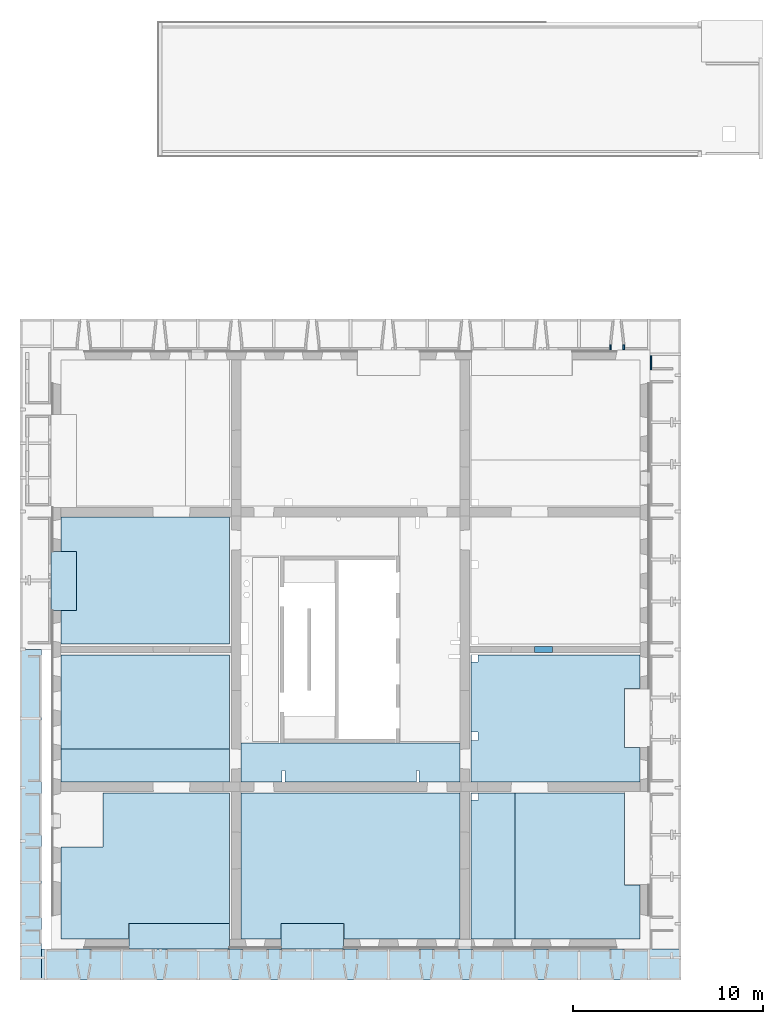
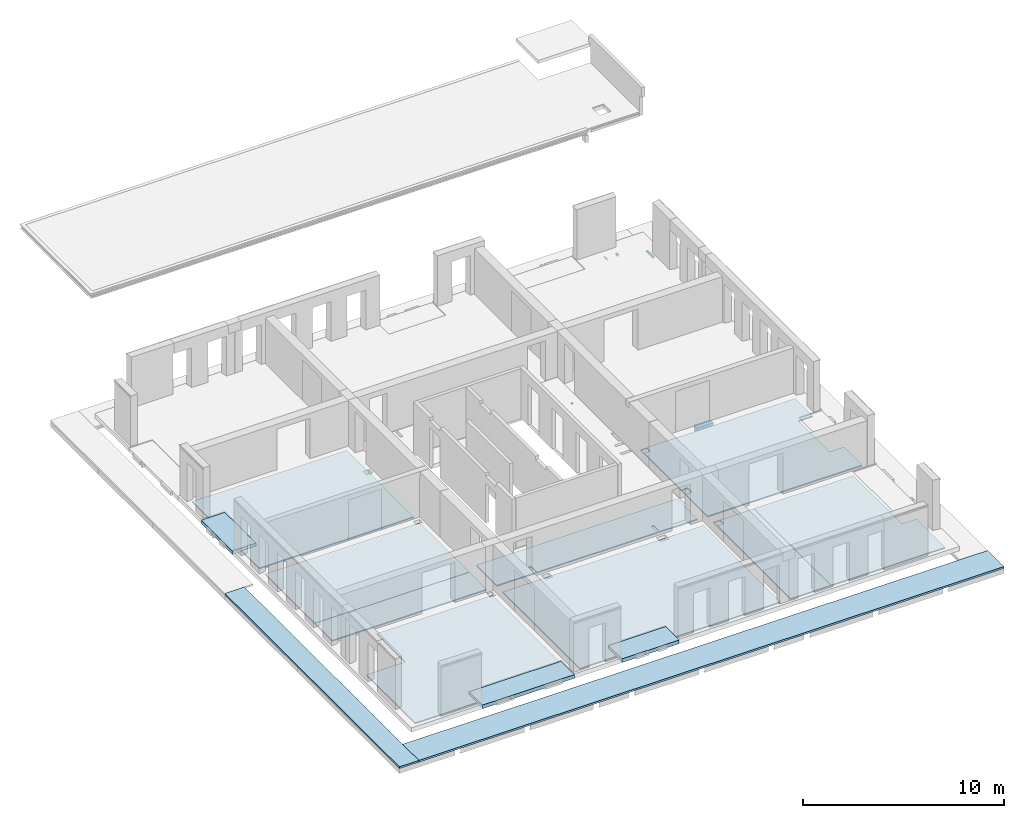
# One storey, part 19 of 27: 14 slabs, 4 beams, 24 openings.
"""IFC2X3 building model written with IfcOpenShell, lengths in millimetres."""

from ifc_helpers import new_model, entity, si_unit, converted_unit, derived_unit, direction, frame, frame_2d, origin, origin_2d_with_axis, place, context, subcontext, project, spatial, polyline, circle_curve, parameter, trimmed, segment, composite_curve, rectangle, circle, outline, extrude, faceted_brep, source, transform, mapped, material, layer, layer_set, layer_usage, type_object, type_shapes, element, save


model = new_model("IFC2X3")

# Units and contexts
model_context = context("Model", 3, precision=0.01, world=origin(), true_north=direction((6.12303176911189e-17, 1.0)))
body_context = subcontext(model_context, "Body", "Model", "MODEL_VIEW")
ifc_project = project(units=[si_unit("LENGTHUNIT", "METRE", prefix="MILLI"), si_unit("AREAUNIT", "SQUARE_METRE"), si_unit("VOLUMEUNIT", "CUBIC_METRE"), converted_unit("PLANEANGLEUNIT", "DEGREE", entity("IfcRatioMeasure", 0.0174532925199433), si_unit("PLANEANGLEUNIT", "RADIAN"), dimensions=[0, 0, 0, 0, 0, 0, 0]), si_unit("MASSUNIT", "GRAM", prefix="KILO"), derived_unit("MASSDENSITYUNIT", [(si_unit("MASSUNIT", "GRAM", prefix="KILO"), 1), (si_unit("LENGTHUNIT", "METRE"), -3)]), si_unit("TIMEUNIT", "SECOND"), si_unit("FREQUENCYUNIT", "HERTZ"), si_unit("THERMODYNAMICTEMPERATUREUNIT", "DEGREE_CELSIUS"), derived_unit("THERMALTRANSMITTANCEUNIT", [(si_unit("MASSUNIT", "GRAM", prefix="KILO"), 1), (si_unit("THERMODYNAMICTEMPERATUREUNIT", "KELVIN"), -1), (si_unit("TIMEUNIT", "SECOND"), -3)]), derived_unit("VOLUMETRICFLOWRATEUNIT", [(si_unit("LENGTHUNIT", "METRE"), 3), (si_unit("TIMEUNIT", "SECOND"), -1)]), si_unit("ELECTRICCURRENTUNIT", "AMPERE"), si_unit("ELECTRICVOLTAGEUNIT", "VOLT"), si_unit("POWERUNIT", "WATT"), si_unit("FORCEUNIT", "NEWTON", prefix="KILO"), si_unit("ILLUMINANCEUNIT", "LUX"), si_unit("LUMINOUSFLUXUNIT", "LUMEN"), si_unit("LUMINOUSINTENSITYUNIT", "CANDELA"), derived_unit("USERDEFINED", [(si_unit("MASSUNIT", "GRAM", prefix="KILO"), -1), (si_unit("LENGTHUNIT", "METRE"), -2), (si_unit("TIMEUNIT", "SECOND"), 3), (si_unit("LUMINOUSFLUXUNIT", "LUMEN"), 1)]), derived_unit("LINEARVELOCITYUNIT", [(si_unit("LENGTHUNIT", "METRE"), 1), (si_unit("TIMEUNIT", "SECOND"), -1)]), si_unit("PRESSUREUNIT", "PASCAL"), derived_unit("USERDEFINED", [(si_unit("LENGTHUNIT", "METRE"), -2), (si_unit("MASSUNIT", "GRAM", prefix="KILO"), 1), (si_unit("TIMEUNIT", "SECOND"), -2)])], contexts=[model_context])

# Site, building, storey
site_placement = place(None, origin())
site = spatial("IfcSite", under=ifc_project, at=site_placement, Name="Default", CompositionType="ELEMENT")
building_placement = place(site_placement, origin())
building = spatial("IfcBuilding", under=site, at=building_placement, Name="niet gebruiken", CompositionType="ELEMENT")
storey_placement = place(building_placement, frame((0.0, 0.0, 18000.0)))
storey = spatial("IfcBuildingStorey", under=building, at=storey_placement, Name="05 vijfde verdieping", CompositionType="ELEMENT", Elevation=18000.0)

# Beams
ifc_material_1 = material(Name="NLRS_f2_beton prefab")
beam_type_1 = type_object("IfcBeamType", Name="300x370", PredefinedType="BEAM", material=ifc_material_1)
shared_shape = source(origin(), body_context, "Body", "Brep", [
    faceted_brep([(950.0, 0.0, 370.0), (950.0, 0.0, 0.0), (950.0, 300.0, 0.0), (950.0, 300.0, 370.0), (0.0, 0.0, 370.0), (0.0, 300.0, 370.0), (0.0, 300.0, 0.0), (0.0, 0.0, 0.0)], [[[0, 1, 2, 3]], [[4, 5, 6, 7]], [[1, 0, 4, 7]], [[2, 1, 7, 6]], [[3, 2, 6, 5]], [[0, 3, 5, 4]]]),
])
type_shapes(beam_type_1, [shared_shape])
beam_1_placement = place(storey_placement, frame((151400.0, 17350.0, -600.0)))
element("IfcBeam", 1, at=beam_1_placement, inside=storey, type_object=beam_type_1, material=ifc_material_1, Name="NLRS_28.11_SF_WPB_prefabbeton balk recht_gen:300x370", ObjectType="300x370", context=body_context, shape_type="MappedRepresentation", body=[
    mapped(shared_shape, transform((0.0, 0.0, 0.0), scale=1.0)),
])
ifc_material_2 = material(Name="NLRS_h2_staal")
beam_type_2 = type_object("IfcBeamType", Name="NLRS_28.11_SF_WPB_stalen ligger hoekprofiel gelijkzijdig_gen:ligger gelijzijdig hoekprofiel LEQU_100x100x10", PredefinedType="BEAM")
beam_2_placement = place(storey_placement, frame((155350.0, 33490.0, -1015.0), z_axis=(0.0, 0.0, 1.0), x_axis=(0.0, -1.0, 0.0)))
element("IfcBeam", 2, at=beam_2_placement, inside=storey, type_object=beam_type_2, material=ifc_material_2, Name="NLRS_28.11_SF_WPB_stalen ligger hoekprofiel gelijkzijdig_gen:ligger gelijzijdig hoekprofiel LEQU_100x100x10", ObjectType="NLRS_28.11_SF_WPB_stalen ligger hoekprofiel gelijkzijdig_gen:ligger gelijzijdig hoekprofiel LEQU_100x100x10", context=body_context, shape_type="SweptSolid", body=[
    extrude(outline(composite_curve([segment(polyline([(-37.7777777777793, -62.2222222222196), (-33.777777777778, -62.2222222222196)]), True, "CONTINUOUS"), segment(trimmed(circle_curve(frame_2d((-33.7777777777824, -56.2222222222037), x_axis=(0.0, -1.0)), 6.00000000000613), [parameter(0.0)], [parameter(89.9999999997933)], True, "PARAMETER"), True, "CONTINUOUS"), segment(polyline([(-27.7777777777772, -56.222222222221), (-27.7777777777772, 15.77777777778)]), True, "CONTINUOUS"), segment(trimmed(circle_curve(frame_2d((-15.77777777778, 15.77777777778), x_axis=(-1.0, 0.0)), 11.9999999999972), [parameter(269.99999999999)], [parameter(0.0)], True, "PARAMETER"), False, "CONTINUOUS"), segment(polyline([(-15.7777777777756, 27.7777777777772), (56.2222222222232, 27.7777777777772)]), True, "CONTINUOUS"), segment(trimmed(circle_curve(frame_2d((56.2222222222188, 33.7777777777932), x_axis=(0.0, -1.0)), 6.00000000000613), [parameter(0.0)], [parameter(89.9999999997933)], True, "PARAMETER"), True, "CONTINUOUS"), segment(polyline([(62.2222222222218, 33.7777777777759), (62.2222222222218, 37.777777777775)]), True, "CONTINUOUS"), segment(polyline([(62.222222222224, 37.777777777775), (-37.7777777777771, 37.777777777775)]), True, "CONTINUOUS"), segment(polyline([(-37.7777777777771, 37.777777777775), (-37.7777777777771, -62.2222222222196)]), True, "CONTINUOUS")], self_intersect=False)), frame((0.0, 62.2222222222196, -37.7777777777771), z_axis=(1.0, 0.0, 0.0), x_axis=(0.0, 0.0, -1.0)), (0.0, 0.0, 1.0), 240.000000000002),
])
beam_3_placement = place(storey_placement, frame((156150.0, 33490.0, -1015.0), z_axis=(0.0, 0.0, 1.0), x_axis=(0.0, -1.0, 0.0)))
element("IfcBeam", 3, at=beam_3_placement, inside=storey, type_object=beam_type_2, material=ifc_material_2, Name="NLRS_28.11_SF_WPB_stalen ligger hoekprofiel gelijkzijdig_gen:ligger gelijzijdig hoekprofiel LEQU_100x100x10", ObjectType="NLRS_28.11_SF_WPB_stalen ligger hoekprofiel gelijkzijdig_gen:ligger gelijzijdig hoekprofiel LEQU_100x100x10", context=body_context, shape_type="SweptSolid", body=[
    extrude(outline(composite_curve([segment(polyline([(-37.7777777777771, -37.777777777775), (62.222222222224, -37.777777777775)]), True, "CONTINUOUS"), segment(polyline([(62.2222222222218, -37.777777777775), (62.2222222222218, -33.7777777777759)]), True, "CONTINUOUS"), segment(trimmed(circle_curve(frame_2d((56.2222222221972, -33.7777777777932), x_axis=(1.0, 0.0)), 6.00000000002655), [parameter(0.0)], [parameter(89.9999999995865)], True, "PARAMETER"), True, "CONTINUOUS"), segment(polyline([(56.2222222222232, -27.7777777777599), (-15.7777777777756, -27.7777777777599)]), True, "CONTINUOUS"), segment(trimmed(circle_curve(frame_2d((-15.7777777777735, -15.7777777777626), x_axis=(0.0, -1.0)), 12.000000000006), [parameter(270.000000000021)], [parameter(0.0)], True, "PARAMETER"), False, "CONTINUOUS"), segment(polyline([(-27.7777777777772, -15.7777777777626), (-27.7777777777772, 56.222222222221)]), True, "CONTINUOUS"), segment(trimmed(circle_curve(frame_2d((-33.7777777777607, 56.222222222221), x_axis=(1.0, 0.0)), 5.99999999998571), [parameter(0.0)], [parameter(90.0000000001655)], True, "PARAMETER"), True, "CONTINUOUS"), segment(polyline([(-33.777777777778, 62.2222222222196), (-37.7777777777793, 62.2222222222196)]), True, "CONTINUOUS"), segment(polyline([(-37.7777777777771, 62.2222222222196), (-37.7777777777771, -37.777777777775)]), True, "CONTINUOUS")], self_intersect=False)), frame((0.0, -62.2222222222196, -37.7777777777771), z_axis=(1.0, 0.0, 0.0), x_axis=(0.0, 0.0, -1.0)), (0.0, 0.0, 1.0), 240.000000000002),
])
beam_4_placement = place(storey_placement, frame((157480.0, 32200.2457647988, -1015.0), z_axis=(0.0, 0.0, 1.0), x_axis=(0.0, 1.0, 0.0)))
element("IfcBeam", 4, at=beam_4_placement, inside=storey, type_object=beam_type_2, material=ifc_material_2, Name="NLRS_28.11_SF_WPB_stalen ligger hoekprofiel gelijkzijdig_gen:ligger gelijzijdig hoekprofiel LEQU_100x100x10", ObjectType="NLRS_28.11_SF_WPB_stalen ligger hoekprofiel gelijkzijdig_gen:ligger gelijzijdig hoekprofiel LEQU_100x100x10", context=body_context, shape_type="SweptSolid", body=[
    extrude(outline(composite_curve([segment(polyline([(-37.7777777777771, -62.2222222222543), (-33.7777777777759, -62.2222222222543)]), True, "CONTINUOUS"), segment(trimmed(circle_curve(frame_2d((-33.7777777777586, -56.2222222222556), x_axis=(0.0, -1.0)), 5.9999999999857), [parameter(0.0)], [parameter(90.0000000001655)], True, "PARAMETER"), True, "CONTINUOUS"), segment(polyline([(-27.7777777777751, -56.2222222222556), (-27.7777777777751, 15.777777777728)]), True, "CONTINUOUS"), segment(trimmed(circle_curve(frame_2d((-15.7777777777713, 15.7777777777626), x_axis=(-1.0, 0.0)), 12.000000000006), [parameter(270.000000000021)], [parameter(0.0)], True, "PARAMETER"), False, "CONTINUOUS"), segment(polyline([(-15.7777777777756, 27.7777777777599), (56.2222222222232, 27.7777777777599)]), True, "CONTINUOUS"), segment(trimmed(circle_curve(frame_2d((56.2222222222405, 33.7777777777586), x_axis=(0.0, -1.0)), 5.9999999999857), [parameter(0.0)], [parameter(90.0000000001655)], True, "PARAMETER"), True, "CONTINUOUS"), segment(polyline([(62.222222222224, 33.7777777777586), (62.222222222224, 37.7777777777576)]), True, "CONTINUOUS"), segment(polyline([(62.222222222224, 37.7777777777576), (-37.7777777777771, 37.7777777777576)]), True, "CONTINUOUS"), segment(polyline([(-37.7777777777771, 37.7777777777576), (-37.7777777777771, -62.2222222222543)]), True, "CONTINUOUS")], self_intersect=False)), frame((-0.245764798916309, -37.7777777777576, -37.7777777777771), z_axis=(1.0, 0.0, 0.0), x_axis=(0.0, 0.0, -1.0)), (0.0, 0.0, 1.0), 720.000000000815),
])

# Slabs
ifc_material_3 = material(Name="NLRS_f2_beton ihwg")
ifc_layer_1 = layer(ifc_material_3, 220.0)
ifc_layer_set_1 = layer_set([ifc_layer_1], Name="Floor:NLRS_23.21_FL_beton ihwg d=220_gen")
ifc_layer_usage_1 = layer_usage(ifc_layer_set_1, "AXIS3", "POSITIVE", 0.0)
slab_1_placement = place(storey_placement, frame((126020.0, 1770.0, -360.0)))
element("IfcSlab", 5, at=slab_1_placement, inside=storey, material=ifc_layer_usage_1, Name="Floor:NLRS_23.21_FL_beton ihwg d=220_gen:5", ObjectType="Floor:NLRS_23.21_FL_beton ihwg d=220_gen", PredefinedType="FLOOR", context=body_context, shape_type="SweptSolid", body=[
    extrude(rectangle(XDim=3280.0, YDim=1345.00000000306, at=frame_2d((2000.0, -15057.5000000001), x_axis=(1.0, 0.0))), frame((15730.0, 15730.0, 220.0), z_axis=(0.0, 0.0, -1.0), x_axis=(-1.0, 0.0, 0.0)), (0.0, 0.0, 1.0), 220.0),
])
slab_2_placement = place(storey_placement, frame((126020.0, 1770.0, -360.0)))
element("IfcSlab", 6, at=slab_2_placement, inside=storey, material=ifc_layer_usage_1, Name="Floor:NLRS_23.21_FL_beton ihwg d=220_gen:6", ObjectType="Floor:NLRS_23.21_FL_beton ihwg d=220_gen", PredefinedType="FLOOR", context=body_context, shape_type="SweptSolid", body=[
    extrude(rectangle(XDim=3079.99999999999, YDim=1345.00000000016, at=frame_2d((15057.5000000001, 3600.0), x_axis=(0.0, 1.0))), frame((15730.0, 15730.0, 220.0), z_axis=(0.0, 0.0, -1.0), x_axis=(-1.0, 0.0, 0.0)), (0.0, 0.0, 1.0), 220.0),
])
slab_3_placement = place(storey_placement, frame((126020.0, 1770.0, -360.0)))
element("IfcSlab", 7, at=slab_3_placement, inside=storey, material=ifc_layer_usage_1, Name="Floor:NLRS_23.21_FL_beton ihwg d=220_gen:7", ObjectType="Floor:NLRS_23.21_FL_beton ihwg d=220_gen", PredefinedType="FLOOR", context=body_context, shape_type="SweptSolid", body=[
    extrude(rectangle(XDim=5280.00000000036, YDim=1344.99999999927, at=frame_2d((9000.0, -15057.4999999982), x_axis=(1.0, 0.0))), frame((15730.0, 15730.0, 220.0), z_axis=(0.0, 0.0, -1.0), x_axis=(-1.0, 0.0, 0.0)), (0.0, 0.0, 1.0), 220.0),
])

# Slab, opening
ifc_layer_2 = layer(ifc_material_1, 70.0)
ifc_layer_set_2 = layer_set([ifc_layer_2], Name="Floor:NLRS_23.21_FL_breedplaat d=70_gen")
ifc_layer_usage_2 = layer_usage(ifc_layer_set_2, "AXIS3", "POSITIVE", 0.0)
slab_4_placement = place(storey_placement, frame((126540.0, 2290.0, -360.0)))
slab_4 = element("IfcSlab", 8, at=slab_4_placement, inside=storey, material=ifc_layer_usage_2, Name="Floor:NLRS_23.21_FL_breedplaat d=70_gen", ObjectType="Floor:NLRS_23.21_FL_breedplaat d=70_gen", PredefinedType="FLOOR", context=body_context, shape_type="SweptSolid", body=[
    extrude(outline(polyline([(8370.0, -4988.0), (11930.0, -4988.0), (11930.0, -148.0), (9710.0, -148.0), (9710.0, 2682.0), (3060.0, 2682.0), (3060.0, -4153.0), (8370.0, -4153.0), (8370.0, -4988.0)])), frame((11930.0, 4988.0, 70.0), z_axis=(0.0, 0.0, -1.0), x_axis=(-1.0, 0.0, 0.0)), (0.0, 0.0, 1.0), 69.9999999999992),
])
placement_1 = place(slab_4_placement, origin())
element("IfcOpeningElement", 9, at=placement_1, cuts=slab_4, ObjectType="Opening", context=body_context, shape_type="SweptSolid", body=[
    extrude(rectangle(XDim=360.000000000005, YDim=360.000000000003, at=origin_2d_with_axis()), frame((21740.0, 7480.0, 0.0), z_axis=(0.0, 0.0, 1.0), x_axis=(-1.0, 0.0, 0.0)), (0.0, 0.0, 1.0), 269.999999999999),
])

slab_5_placement = place(storey_placement, frame((126540.0, 2290.0, -360.0)))
slab_5 = element("IfcSlab", 10, at=slab_5_placement, inside=storey, material=ifc_layer_usage_2, Name="Floor:NLRS_23.21_FL_breedplaat d=70_gen:2", ObjectType="Floor:NLRS_23.21_FL_breedplaat d=70_gen", PredefinedType="FLOOR", context=body_context, shape_type="SweptSolid", body=[
    extrude(rectangle(XDim=7670.00000000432, YDim=2309.99999999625, at=frame_2d((-10775.0, -1153.0), x_axis=(0.0, -1.0))), frame((11930.0, 4988.0, 70.0), z_axis=(0.0, 0.0, -1.0), x_axis=(-1.0, 0.0, 0.0)), (0.0, 0.0, 1.0), 69.9999999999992),
])
element("IfcOpeningElement", 11, at=placement_1, cuts=slab_5, ObjectType="Opening", context=body_context, shape_type="SweptSolid", body=[
    extrude(rectangle(XDim=360.000000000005, YDim=360.000000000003, at=origin_2d_with_axis()), frame((21740.0, 7480.0, 0.0), z_axis=(0.0, 0.0, 1.0), x_axis=(-1.0, 0.0, 0.0)), (0.0, 0.0, 1.0), 269.999999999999),
])

slab_6_placement = place(storey_placement, frame((126540.0, 2290.0, -360.0)))
slab_6 = element("IfcSlab", 12, at=slab_6_placement, inside=storey, material=ifc_layer_usage_2, Name="Floor:NLRS_23.21_FL_breedplaat d=70_gen:3", ObjectType="Floor:NLRS_23.21_FL_breedplaat d=70_gen", PredefinedType="FLOOR", context=body_context, shape_type="SweptSolid", body=[
    extrude(outline(polyline([(2480.0, -4988.0), (2480.0, 2682.0), (-9040.0, 2682.0), (-9040.0, -4988.0), (-2930.0, -4988.0), (-2930.0, -4153.0), (370.0, -4153.0), (370.0, -4988.0), (2480.0, -4988.0)])), frame((11930.0, 4988.0, 70.0), z_axis=(0.0, 0.0, -1.0), x_axis=(-1.0, 0.0, 0.0)), (0.0, 0.0, 1.0), 69.9999999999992),
])
element("IfcOpeningElement", 13, at=placement_1, cuts=slab_6, ObjectType="Opening", context=body_context, shape_type="SweptSolid", body=[
    extrude(rectangle(XDim=360.000000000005, YDim=360.000000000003, at=origin_2d_with_axis()), frame((21740.0, 7480.0, 0.0), z_axis=(0.0, 0.0, 1.0), x_axis=(-1.0, 0.0, 0.0)), (0.0, 0.0, 1.0), 269.999999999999),
])

slab_7_placement = place(storey_placement, frame((126540.0, 2290.0, -360.0)))
slab_7 = element("IfcSlab", 14, at=slab_7_placement, inside=storey, material=ifc_layer_usage_2, Name="Floor:NLRS_23.21_FL_breedplaat d=70_gen:4", ObjectType="Floor:NLRS_23.21_FL_breedplaat d=70_gen", PredefinedType="FLOOR", context=body_context, shape_type="SweptSolid", body=[
    extrude(rectangle(XDim=8870.00000000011, YDim=1725.99999999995, at=frame_2d((7495.0, 4125.0), x_axis=(-1.0, 0.0))), frame((11930.0, 4988.0, 70.0), z_axis=(0.0, 0.0, -1.0), x_axis=(-1.0, 0.0, 0.0)), (0.0, 0.0, 1.0), 69.9999999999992),
])
element("IfcOpeningElement", 15, at=placement_1, cuts=slab_7, ObjectType="Opening", context=body_context, shape_type="SweptSolid", body=[
    extrude(rectangle(XDim=360.000000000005, YDim=360.000000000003, at=origin_2d_with_axis()), frame((21740.0, 7480.0, 0.0), z_axis=(0.0, 0.0, 1.0), x_axis=(-1.0, 0.0, 0.0)), (0.0, 0.0, 1.0), 269.999999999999),
])

# Slab, openings
ifc_layer_usage_3 = layer_usage(ifc_layer_set_2, "AXIS3", "POSITIVE", 0.0)
slab_8_placement = place(storey_placement, frame((148090.0, 2290.0, -360.0)))
slab_8 = element("IfcSlab", 16, at=slab_8_placement, inside=storey, material=ifc_layer_usage_3, Name="Floor:NLRS_23.21_FL_breedplaat d=70_gen:2", ObjectType="Floor:NLRS_23.21_FL_breedplaat d=70_gen", PredefinedType="FLOOR", context=body_context, shape_type="SweptSolid", body=[
    extrude(outline(polyline([(-4435.0, -9715.0), (-4435.0, -12575.0), (2125.0, -12575.0), (2125.0, -4905.0), (-3600.0, -4905.0), (-3600.0, -9715.0), (-4435.0, -9715.0)])), frame((4435.0, 12575.0, 70.0), z_axis=(0.0, 0.0, -1.0), x_axis=(-1.0, 0.0, 0.0)), (0.0, 0.0, 1.0), 69.9999999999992),
])
placement_2 = place(storey_placement, frame((148090.0, 2290.0, -360.0)))
placement_3 = place(placement_2, origin())
element("IfcOpeningElement", 17, at=placement_3, cuts=slab_8, ObjectType="Opening", context=body_context, shape_type="SweptSolid", body=[
    extrude(rectangle(XDim=430.000000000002, YDim=350.000000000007, at=origin_2d_with_axis()), frame((185.0, 10660.0, 0.0), z_axis=(0.0, 0.0, 1.0), x_axis=(0.0, -1.0, 0.0)), (0.0, 0.0, 1.0), 269.999999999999),
])
placement_4 = place(placement_2, origin())
element("IfcOpeningElement", 18, at=placement_4, cuts=slab_8, ObjectType="Opening", context=body_context, shape_type="SweptSolid", body=[
    extrude(rectangle(XDim=350.000000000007, YDim=350.000000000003, at=origin_2d_with_axis()), frame((185.0, 14735.0, 0.0), z_axis=(0.0, 0.0, 1.0), x_axis=(-1.0, 0.0, 0.0)), (0.0, 0.0, 1.0), 269.999999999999),
])
placement_5 = place(placement_2, origin())
element("IfcOpeningElement", 19, at=placement_5, cuts=slab_8, ObjectType="Opening", context=body_context, shape_type="SweptSolid", body=[
    extrude(rectangle(XDim=350.000000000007, YDim=350.000000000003, at=origin_2d_with_axis()), frame((185.0, 15685.0, 0.0), z_axis=(0.0, 0.0, 1.0), x_axis=(-1.0, 0.0, 0.0)), (0.0, 0.0, 1.0), 269.999999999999),
])
placement_6 = place(placement_2, origin())
element("IfcOpeningElement", 20, at=placement_6, cuts=slab_8, ObjectType="Opening", context=body_context, shape_type="SweptSolid", body=[
    extrude(rectangle(XDim=380.0, YDim=350.000000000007, at=origin_2d_with_axis()), frame((185.0, 19665.0, 0.0), z_axis=(0.0, 0.0, 1.0), x_axis=(0.0, 1.0, 0.0)), (0.0, 0.0, 1.0), 269.999999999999),
])
placement_7 = place(placement_2, origin())
element("IfcOpeningElement", 21, at=placement_7, cuts=slab_8, ObjectType="Opening", context=body_context, shape_type="SweptSolid", body=[
    extrude(rectangle(XDim=360.000000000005, YDim=320.000000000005, at=origin_2d_with_axis()), frame((190.0, 22920.0, 0.0), z_axis=(0.0, 0.0, 1.0), x_axis=(-1.0, 0.0, 0.0)), (0.0, 0.0, 1.0), 269.999999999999),
])

slab_9_placement = place(storey_placement, frame((148090.0, 2290.0, -360.0)))
slab_9 = element("IfcSlab", 22, at=slab_9_placement, inside=storey, material=ifc_layer_usage_3, Name="Floor:NLRS_23.21_FL_breedplaat d=70_gen:3", ObjectType="Floor:NLRS_23.21_FL_breedplaat d=70_gen", PredefinedType="FLOOR", context=body_context, shape_type="SweptSolid", body=[
    extrude(outline(polyline([(-4435.0, -4325.0), (4435.0, -4325.0), (4435.0, 2345.0), (-4435.0, 2345.0), (-4435.0, 585.0), (-3600.0, 585.0), (-3600.0, -2515.0), (-4435.0, -2515.0), (-4435.0, -4325.0)])), frame((4435.0, 12575.0, 70.0), z_axis=(0.0, 0.0, -1.0), x_axis=(-1.0, 0.0, 0.0)), (0.0, 0.0, 1.0), 69.9999999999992),
])
element("IfcOpeningElement", 23, at=placement_3, cuts=slab_9, ObjectType="Opening", context=body_context, shape_type="SweptSolid", body=[
    extrude(rectangle(XDim=430.000000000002, YDim=350.000000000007, at=origin_2d_with_axis()), frame((185.0, 10660.0, 0.0), z_axis=(0.0, 0.0, 1.0), x_axis=(0.0, -1.0, 0.0)), (0.0, 0.0, 1.0), 269.999999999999),
])
element("IfcOpeningElement", 24, at=placement_4, cuts=slab_9, ObjectType="Opening", context=body_context, shape_type="SweptSolid", body=[
    extrude(rectangle(XDim=350.000000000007, YDim=350.000000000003, at=origin_2d_with_axis()), frame((185.0, 14735.0, 0.0), z_axis=(0.0, 0.0, 1.0), x_axis=(-1.0, 0.0, 0.0)), (0.0, 0.0, 1.0), 269.999999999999),
])
element("IfcOpeningElement", 25, at=placement_5, cuts=slab_9, ObjectType="Opening", context=body_context, shape_type="SweptSolid", body=[
    extrude(rectangle(XDim=350.000000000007, YDim=350.000000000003, at=origin_2d_with_axis()), frame((185.0, 15685.0, 0.0), z_axis=(0.0, 0.0, 1.0), x_axis=(-1.0, 0.0, 0.0)), (0.0, 0.0, 1.0), 269.999999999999),
])
element("IfcOpeningElement", 26, at=placement_6, cuts=slab_9, ObjectType="Opening", context=body_context, shape_type="SweptSolid", body=[
    extrude(rectangle(XDim=380.0, YDim=350.000000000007, at=origin_2d_with_axis()), frame((185.0, 19665.0, 0.0), z_axis=(0.0, 0.0, 1.0), x_axis=(0.0, 1.0, 0.0)), (0.0, 0.0, 1.0), 269.999999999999),
])
element("IfcOpeningElement", 27, at=placement_7, cuts=slab_9, ObjectType="Opening", context=body_context, shape_type="SweptSolid", body=[
    extrude(rectangle(XDim=360.000000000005, YDim=320.000000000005, at=origin_2d_with_axis()), frame((190.0, 22920.0, 0.0), z_axis=(0.0, 0.0, 1.0), x_axis=(-1.0, 0.0, 0.0)), (0.0, 0.0, 1.0), 269.999999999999),
])

# Slabs
ifc_layer_usage_4 = layer_usage(ifc_layer_set_2, "AXIS3", "POSITIVE", 0.0)
slab_10_placement = place(storey_placement, frame((126540.0, 12266.0, -360.0)))
element("IfcSlab", 28, at=slab_10_placement, inside=storey, material=ifc_layer_usage_4, Name="Floor:NLRS_23.21_FL_breedplaat d=70_gen:2", ObjectType="Floor:NLRS_23.21_FL_breedplaat d=70_gen", PredefinedType="FLOOR", context=body_context, shape_type="SweptSolid", body=[
    extrude(outline(polyline([(-4435.0, 1972.0), (-4435.0, -4698.0), (4435.0, -4698.0), (4435.0, -2938.0), (3600.0, -2938.0), (3600.0, 162.0), (4435.0, 162.0), (4435.0, 1972.0), (-4435.0, 1972.0)])), frame((4435.0, 10222.0, 70.0), z_axis=(0.0, 0.0, -1.0), x_axis=(-1.0, 0.0, 0.0)), (0.0, 0.0, 1.0), 69.9999999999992),
])
slab_11_placement = place(storey_placement, frame((126540.0, 12266.0, -360.0)))
element("IfcSlab", 29, at=slab_11_placement, inside=storey, material=ifc_layer_usage_4, Name="Floor:NLRS_23.21_FL_breedplaat d=70_gen:3", ObjectType="Floor:NLRS_23.21_FL_breedplaat d=70_gen", PredefinedType="FLOOR", context=body_context, shape_type="SweptSolid", body=[
    extrude(rectangle(XDim=8870.00000000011, YDim=4944.00000000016, at=frame_2d((0.0, -7750.0), x_axis=(-1.0, 0.0))), frame((4435.0, 10222.0, 70.0), z_axis=(0.0, 0.0, -1.0), x_axis=(-1.0, 0.0, 0.0)), (0.0, 0.0, 1.0), 69.9999999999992),
])

# Slab, openings
ifc_layer_usage_5 = layer_usage(ifc_layer_set_2, "AXIS3", "POSITIVE", 0.0)
slab_12_placement = place(storey_placement, frame((135990.0, 10540.0, -330.0)))
slab_12 = element("IfcSlab", 30, at=slab_12_placement, inside=storey, material=ifc_layer_usage_5, Name="Floor:NLRS_23.21_FL_breedplaat d=70_gen:2", ObjectType="Floor:NLRS_23.21_FL_breedplaat d=70_gen", PredefinedType="FLOOR", context=body_context, shape_type="SweptSolid", body=[
    extrude(rectangle(XDim=2039.99999999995, YDim=11520.0, at=frame_2d((0.0, -5940.0), x_axis=(0.0, 1.0))), frame((5760.0, 6960.0, 70.0), z_axis=(0.0, 0.0, -1.0), x_axis=(-1.0, 0.0, 0.0)), (0.0, 0.0, 1.0), 69.9999999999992),
])
placement_8 = place(storey_placement, frame((135990.0, 10540.0, -330.0)))
opening_15_placement = place(placement_8, origin())
element("IfcOpeningElement", 31, at=opening_15_placement, cuts=slab_12, ObjectType="Opening", context=body_context, shape_type="SweptSolid", body=[
    extrude(rectangle(XDim=800.000000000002, YDim=140.000000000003, at=origin_2d_with_axis()), frame((11440.0, 7985.0, 0.0), z_axis=(0.0, 0.0, 1.0), x_axis=(0.0, -1.0, 0.0)), (0.0, 0.0, 1.0), 240.0),
])
opening_16_placement = place(placement_8, origin())
element("IfcOpeningElement", 32, at=opening_16_placement, cuts=slab_12, ObjectType="Opening", context=body_context, shape_type="SweptSolid", body=[
    extrude(rectangle(XDim=1100.0, YDim=400.000000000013, at=origin_2d_with_axis()), frame((210.0, 7810.0, 0.0), z_axis=(0.0, 0.0, 1.0), x_axis=(0.0, -1.0, 0.0)), (0.0, 0.0, 1.0), 240.0),
])
opening_17_placement = place(placement_8, origin())
element("IfcOpeningElement", 33, at=opening_17_placement, cuts=slab_12, ObjectType="Opening", context=body_context, shape_type="SweptSolid", body=[
    extrude(rectangle(XDim=1060.0, YDim=400.000000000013, at=origin_2d_with_axis()), frame((210.0, 6130.0, 0.0), z_axis=(0.0, 0.0, 1.0), x_axis=(0.0, -1.0, 0.0)), (0.0, 0.0, 1.0), 240.0),
])
opening_18_placement = place(placement_8, origin())
element("IfcOpeningElement", 34, at=opening_18_placement, cuts=slab_12, ObjectType="Opening", context=body_context, shape_type="SweptSolid", body=[
    extrude(rectangle(XDim=150.000000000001, YDim=590.000000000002, at=origin_2d_with_axis()), frame((2235.0, 305.0, 0.0)), (0.0, 0.0, 1.0), 240.0),
])
opening_19_placement = place(placement_8, origin())
element("IfcOpeningElement", 35, at=opening_19_placement, cuts=slab_12, ObjectType="Opening", context=body_context, shape_type="SweptSolid", body=[
    extrude(rectangle(XDim=145.000000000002, YDim=595.000000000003, at=origin_2d_with_axis()), frame((9287.50000000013, 307.499999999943, 0.0)), (0.0, 0.0, 1.0), 240.0),
])
opening_20_placement = place(placement_8, origin())
element("IfcOpeningElement", 36, at=opening_20_placement, cuts=slab_12, ObjectType="Opening", context=body_context, shape_type="SweptSolid", body=[
    extrude(rectangle(XDim=600.000000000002, YDim=155.000000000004, at=origin_2d_with_axis()), frame((11210.0, 6582.49999999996, 0.0)), (0.0, 0.0, 1.0), 240.0),
])
opening_21_placement = place(placement_8, origin())
element("IfcOpeningElement", 37, at=opening_21_placement, cuts=slab_12, ObjectType="Opening", context=body_context, shape_type="SweptSolid", body=[
    extrude(rectangle(XDim=490.00000000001, YDim=150.000000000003, at=origin_2d_with_axis()), frame((11265.0, 7335.0, 0.0)), (0.0, 0.0, 1.0), 240.0),
])
opening_22_placement = place(placement_8, origin())
element("IfcOpeningElement", 38, at=opening_22_placement, cuts=slab_12, ObjectType="Opening", context=body_context, shape_type="SweptSolid", body=[
    extrude(rectangle(XDim=150.000000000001, YDim=600.000000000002, at=origin_2d_with_axis()), frame((9285.02189507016, 13610.0, 0.0)), (0.0, 0.0, 1.0), 240.0),
])
opening_23_placement = place(placement_8, origin())
element("IfcOpeningElement", 39, at=opening_23_placement, cuts=slab_12, ObjectType="Opening", context=body_context, shape_type="SweptSolid", body=[
    extrude(circle(Radius=100.0, at=origin_2d_with_axis()), frame((5134.86122070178, 13809.9503906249, 0.0), z_axis=(0.0, 0.0, 1.0), x_axis=(-1.0, 0.0, 0.0)), (0.0, 0.0, 1.0), 240.0),
])
opening_24_placement = place(placement_8, origin())
element("IfcOpeningElement", 40, at=opening_24_placement, cuts=slab_12, ObjectType="Opening", context=body_context, shape_type="SweptSolid", body=[
    extrude(rectangle(XDim=150.000000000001, YDim=600.000000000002, at=origin_2d_with_axis()), frame((2235.0, 13609.9995381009, 0.0)), (0.0, 0.0, 1.0), 240.0),
])

# Slabs
ifc_layer_3 = layer(ifc_material_2, 110.0)
ifc_layer_set_3 = layer_set([ifc_layer_3], Name="Floor:NLRS_27.21_FL_geprofileerde staalplaat d=110_gen")
ifc_layer_usage_6 = layer_usage(ifc_layer_set_3, "AXIS3", "POSITIVE", 0.0)
slab_13_placement = place(storey_placement, origin())
element("IfcSlab", 41, at=slab_13_placement, inside=storey, material=ifc_layer_usage_6, Name="Floor:NLRS_27.21_FL_geprofileerde staalplaat d=110_gen", ObjectType="Floor:NLRS_27.21_FL_geprofileerde staalplaat d=110_gen", PredefinedType="ROOF", context=body_context, shape_type="SweptSolid", body=[
    extrude(rectangle(XDim=1619.99999993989, YDim=33579.9999999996, at=frame_2d((0.0, 1.41335476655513e-09), x_axis=(1.0, 0.0))), frame((142310.0, 960.0, -905.0), z_axis=(0.0, 0.0, -1.0), x_axis=(0.0, 1.0, 0.0)), (0.0, 0.0, 1.0), 110.000000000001),
])
ifc_layer_usage_7 = layer_usage(ifc_layer_set_3, "AXIS3", "POSITIVE", 0.0)
slab_14_placement = place(storey_placement, origin())
element("IfcSlab", 42, at=slab_14_placement, inside=storey, material=ifc_layer_usage_7, Name="Floor:NLRS_27.21_FL_geprofileerde staalplaat d=110_gen", ObjectType="Floor:NLRS_27.21_FL_geprofileerde staalplaat d=110_gen", PredefinedType="ROOF", context=body_context, shape_type="SweptSolid", body=[
    extrude(rectangle(XDim=17349.9999999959, YDim=1120.00000001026, at=frame_2d((3.36513039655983e-11, 8.69704308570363e-12), x_axis=(1.0, 0.0))), frame((124960.0, 8825.0, -905.0), z_axis=(0.0, 0.0, -1.0), x_axis=(0.0, 1.0, 0.0)), (0.0, 0.0, 1.0), 110.000000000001),
])

save(model, "model.ifc")
